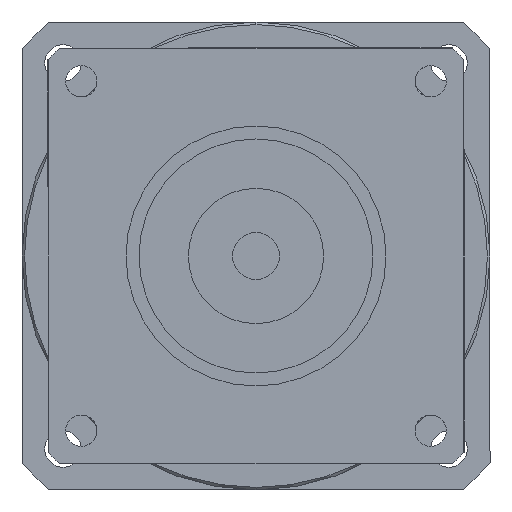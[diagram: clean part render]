
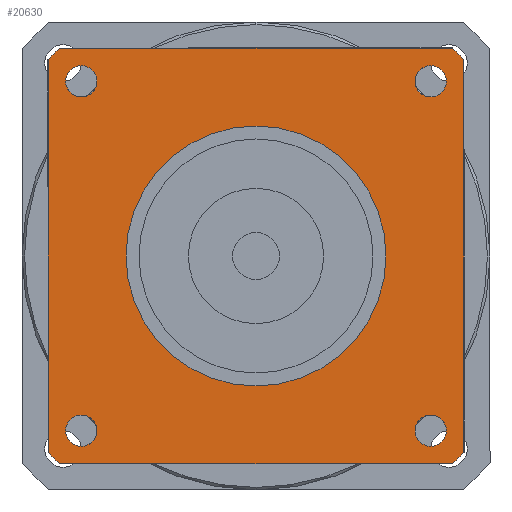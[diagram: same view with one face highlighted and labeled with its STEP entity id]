
A CAD part, left-side view. The second image highlights one B-rep face of the part: STEP entity #20630.
In plain terms, the highlighted planar face has unit normal (-1, 0, 0) as drawn and (0, 0, -1) by its records, which use the part's own axes.
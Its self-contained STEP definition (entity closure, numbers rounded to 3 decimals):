
#16080=CARTESIAN_POINT('',(-40.,37.749,-117.));
#16090=VERTEX_POINT('',#16080);
#16340=CARTESIAN_POINT('',(-40.,-37.749,-117.));
#16350=VERTEX_POINT('',#16340);
#16380=CARTESIAN_POINT('',(-40.,40.,-117.));
#16390=DIRECTION('',(0.,-1.,0.));
#16400=VECTOR('',#16390,1000.);
#16410=LINE('',#16380,#16400);
#16420=EDGE_CURVE('',#16090,#16350,#16410,.T.);
#16580=CARTESIAN_POINT('',(-37.749,-40.,-117.));
#16590=VERTEX_POINT('',#16580);
#16820=CARTESIAN_POINT('',(37.749,-40.,-117.));
#16830=VERTEX_POINT('',#16820);
#16860=CARTESIAN_POINT('',(-40.,-40.,-117.));
#16870=DIRECTION('',(1.,0.,0.));
#16880=VECTOR('',#16870,1000.);
#16890=LINE('',#16860,#16880);
#16900=EDGE_CURVE('',#16590,#16830,#16890,.T.);
#18210=CARTESIAN_POINT('',(0.,0.,
-117.));
#18220=DIRECTION('',(0.,0.,1.));
#18230=DIRECTION('',(0.,-1.,0.));
#18240=AXIS2_PLACEMENT_3D('',#18210,#18220,#18230);
#18250=CIRCLE('',#18240,55.);
#18260=EDGE_CURVE('',#16350,#16590,#18250,.T.);
#18780=CARTESIAN_POINT('',(40.,-37.749,-117.));
#18790=VERTEX_POINT('',#18780);
#18820=CARTESIAN_POINT('',(0.,0.,
-117.));
#18830=DIRECTION('',(0.,0.,1.));
#18840=DIRECTION('',(0.,-1.,0.));
#18850=AXIS2_PLACEMENT_3D('',#18820,#18830,#18840);
#18860=CIRCLE('',#18850,55.);
#18870=EDGE_CURVE('',#16830,#18790,#18860,.T.);
#19010=CARTESIAN_POINT('',(30.588,33.588,-117.));
#19020=VERTEX_POINT('',#19010);
#19200=CARTESIAN_POINT('',(36.588,33.588,-117.));
#19210=VERTEX_POINT('',#19200);
#19240=CARTESIAN_POINT('',(33.588,33.588,-117.));
#19250=DIRECTION('',(0.,0.,-1.));
#19260=DIRECTION('',(0.,1.,0.));
#19270=AXIS2_PLACEMENT_3D('',#19240,#19250,#19260);
#19280=CIRCLE('',#19270,3.);
#19290=CARTESIAN_POINT('',(33.588,36.588,-117.));
#19300=VERTEX_POINT('',#19290);
#19310=EDGE_CURVE('',#19300,#19210,#19280,.T.);
#19330=EDGE_CURVE('',#19020,#19300,#19280,.T.);
#19380=CARTESIAN_POINT('',(-40.,40.,-117.));
#19390=DIRECTION('',(0.,0.,1.));
#19400=DIRECTION('',(-1.,0.,0.));
#19410=AXIS2_PLACEMENT_3D('',#19380,#19390,#19400);
#19420=PLANE('',#19410);
#19430=CARTESIAN_POINT('',(33.588,-33.588,-117.));
#19440=DIRECTION('',(0.,0.,-1.));
#19450=DIRECTION('',(1.,0.,0.));
#19460=AXIS2_PLACEMENT_3D('',#19430,#19440,#19450);
#19470=CIRCLE('',#19460,3.);
#19480=CARTESIAN_POINT('',(36.588,-33.588,-117.));
#19490=VERTEX_POINT('',#19480);
#19500=CARTESIAN_POINT('',(33.588,-36.588,-117.));
#19510=VERTEX_POINT('',#19500);
#19520=EDGE_CURVE('',#19490,#19510,#19470,.T.);
#19530=ORIENTED_EDGE('',*,*,#19520,.F.);
#19540=CARTESIAN_POINT('',(33.588,-30.588,-117.));
#19550=VERTEX_POINT('',#19540);
#19560=EDGE_CURVE('',#19510,#19550,#19470,.T.);
#19570=ORIENTED_EDGE('',*,*,#19560,.F.);
#19580=EDGE_CURVE('',#19550,#19490,#19470,.T.);
#19590=ORIENTED_EDGE('',*,*,#19580,.F.);
#19600=EDGE_LOOP('',(#19590,#19570,#19530));
#19610=FACE_BOUND('',#19600,.T.);
#19620=ORIENTED_EDGE('',*,*,#19310,.F.);
#19630=EDGE_CURVE('',#19210,#19020,#19280,.T.);
#19640=ORIENTED_EDGE('',*,*,#19630,.F.);
#19650=ORIENTED_EDGE('',*,*,#19330,.F.);
#19660=EDGE_LOOP('',(#19650,#19640,#19620));
#19670=FACE_BOUND('',#19660,.T.);
#19680=CARTESIAN_POINT('',(-33.588,33.588,-117.));
#19690=DIRECTION('',(0.,0.,-1.));
#19700=DIRECTION('',(-1.,0.,0.));
#19710=AXIS2_PLACEMENT_3D('',#19680,#19690,#19700);
#19720=CIRCLE('',#19710,3.);
#19730=CARTESIAN_POINT('',(-36.588,33.588,-117.));
#19740=VERTEX_POINT('',#19730);
#19750=CARTESIAN_POINT('',(-33.588,36.588,-117.));
#19760=VERTEX_POINT('',#19750);
#19770=EDGE_CURVE('',#19740,#19760,#19720,.T.);
#19780=ORIENTED_EDGE('',*,*,#19770,.F.);
#19790=CARTESIAN_POINT('',(-33.588,30.588,-117.));
#19800=VERTEX_POINT('',#19790);
#19810=EDGE_CURVE('',#19760,#19800,#19720,.T.);
#19820=ORIENTED_EDGE('',*,*,#19810,.F.);
#19830=EDGE_CURVE('',#19800,#19740,#19720,.T.);
#19840=ORIENTED_EDGE('',*,*,#19830,.F.);
#19850=EDGE_LOOP('',(#19840,#19820,#19780));
#19860=FACE_BOUND('',#19850,.T.);
#19870=CARTESIAN_POINT('',(-33.588,-33.588,-117.));
#19880=DIRECTION('',(0.,0.,-1.));
#19890=DIRECTION('',(0.,-1.,0.));
#19900=AXIS2_PLACEMENT_3D('',#19870,#19880,#19890);
#19910=CIRCLE('',#19900,3.);
#19920=CARTESIAN_POINT('',(-33.588,-36.588,-117.));
#19930=VERTEX_POINT('',#19920);
#19940=CARTESIAN_POINT('',(-36.588,-33.588,-117.));
#19950=VERTEX_POINT('',#19940);
#19960=EDGE_CURVE('',#19930,#19950,#19910,.T.);
#19970=ORIENTED_EDGE('',*,*,#19960,.F.);
#19980=CARTESIAN_POINT('',(-30.588,-33.588,-117.));
#19990=VERTEX_POINT('',#19980);
#20000=EDGE_CURVE('',#19950,#19990,#19910,.T.);
#20010=ORIENTED_EDGE('',*,*,#20000,.F.);
#20020=EDGE_CURVE('',#19990,#19930,#19910,.T.);
#20030=ORIENTED_EDGE('',*,*,#20020,.F.);
#20040=EDGE_LOOP('',(#20030,#20010,#19970));
#20050=FACE_BOUND('',#20040,.T.);
#20060=ORIENTED_EDGE('',*,*,#18260,.F.);
#20070=ORIENTED_EDGE('',*,*,#16900,.F.);
#20080=ORIENTED_EDGE('',*,*,#18870,.F.);
#20090=CARTESIAN_POINT('',(40.,-40.,-117.));
#20100=DIRECTION('',(0.,1.,0.));
#20110=VECTOR('',#20100,1000.);
#20120=LINE('',#20090,#20110);
#20130=CARTESIAN_POINT('',(40.,37.749,-117.));
#20140=VERTEX_POINT('',#20130);
#20150=EDGE_CURVE('',#18790,#20140,#20120,.T.);
#20160=ORIENTED_EDGE('',*,*,#20150,.F.);
#20170=CARTESIAN_POINT('',(0.,0.,
-117.));
#20180=DIRECTION('',(0.,0.,1.));
#20190=DIRECTION('',(0.,-1.,0.));
#20200=AXIS2_PLACEMENT_3D('',#20170,#20180,#20190);
#20210=CIRCLE('',#20200,55.);
#20220=CARTESIAN_POINT('',(37.749,40.,-117.));
#20230=VERTEX_POINT('',#20220);
#20240=EDGE_CURVE('',#20140,#20230,#20210,.T.);
#20250=ORIENTED_EDGE('',*,*,#20240,.F.);
#20260=CARTESIAN_POINT('',(40.,40.,-117.));
#20270=DIRECTION('',(-1.,0.,0.));
#20280=VECTOR('',#20270,1000.);
#20290=LINE('',#20260,#20280);
#20300=CARTESIAN_POINT('',(-37.749,40.,-117.));
#20310=VERTEX_POINT('',#20300);
#20320=EDGE_CURVE('',#20230,#20310,#20290,.T.);
#20330=ORIENTED_EDGE('',*,*,#20320,.F.);
#20340=CARTESIAN_POINT('',(0.,0.,
-117.));
#20350=DIRECTION('',(0.,0.,1.));
#20360=DIRECTION('',(0.,-1.,0.));
#20370=AXIS2_PLACEMENT_3D('',#20340,#20350,#20360);
#20380=CIRCLE('',#20370,55.);
#20390=EDGE_CURVE('',#20310,#16090,#20380,.T.);
#20400=ORIENTED_EDGE('',*,*,#20390,.F.);
#20410=ORIENTED_EDGE('',*,*,#16420,.F.);
#20420=EDGE_LOOP('',(#20410,#20400,#20330,#20250,#20160,#20080,#20070,
#20060));
#20430=FACE_OUTER_BOUND('',#20420,.T.);
#20440=CARTESIAN_POINT('',(0.,0.,
-117.));
#20450=DIRECTION('',(0.,0.,1.));
#20460=DIRECTION('',(0.,-1.,0.));
#20470=AXIS2_PLACEMENT_3D('',#20440,#20450,#20460);
#20480=CIRCLE('',#20470,25.);
#20490=CARTESIAN_POINT('',(25.,0.,-117.));
#20500=VERTEX_POINT('',#20490);
#20510=CARTESIAN_POINT('',(-25.,0.,-117.));
#20520=VERTEX_POINT('',#20510);
#20530=EDGE_CURVE('',#20500,#20520,#20480,.T.);
#20540=ORIENTED_EDGE('',*,*,#20530,.T.);
#20550=CARTESIAN_POINT('',(0.,-25.,-117.));
#20560=VERTEX_POINT('',#20550);
#20570=EDGE_CURVE('',#20560,#20500,#20480,.T.);
#20580=ORIENTED_EDGE('',*,*,#20570,.T.);
#20590=EDGE_CURVE('',#20520,#20560,#20480,.T.);
#20600=ORIENTED_EDGE('',*,*,#20590,.T.);
#20610=EDGE_LOOP('',(#20600,#20580,#20540));
#20620=FACE_BOUND('',#20610,.T.);
#20630=ADVANCED_FACE('',(#19610,#19670,#19860,#20050,#20430,#20620),
#19420,.F.);
